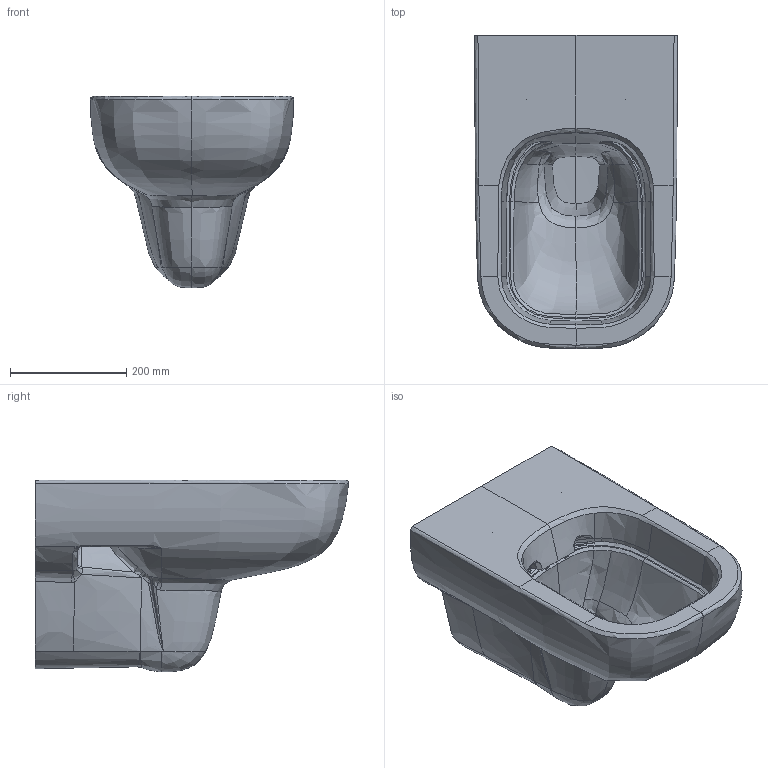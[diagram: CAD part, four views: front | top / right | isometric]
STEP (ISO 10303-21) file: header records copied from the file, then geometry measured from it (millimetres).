
FILE_DESCRIPTION(/* description */ (''),/* implementation_level */ '2;1');
FILE_NAME(/* name */ 'C:\Planerdaten\Export PLA\500.210.01.1\stp\500210.stp',/* time_stamp */ '2020-04-30T09:04:03+02:00',/* author */ ('JANAN'),/* organization */ (''),/* preprocessor_version */ 'ST-DEVELOPER v16.13',/* originating_system */ 'Autodesk Inventor 2018',/* authorisation */ '');
FILE_SCHEMA (('AUTOMOTIVE_DESIGN { 1 0 10303 214 3 1 1 }'));
Products named in the file (2): WWC-T Ge+Smy T54 Rfree; 500.210.01.1_a
Assembly tree (1 placements, depth 2):
  WWC-T Ge+Smy T54 Rfree
    500.210.01.1_a
Bounding box: 350 x 540 x 330.64 mm (x, y, z)
Volume: 20851953.2 mm3; surface area: 810875.2 mm2
Topology: 1 solids, 1 shells, 268 faces, 707 edges, 433 vertices
Faces by surface type: bspline 240, plane 22, cylinder 6
Full cylindrical faces by diameter (mm): 17 x2, 60 x1, 90 x1
Entity records: 57623 total; most frequent: CARTESIAN_POINT 52797, ORIENTED_EDGE 1372, EDGE_CURVE 686, B_SPLINE_CURVE_WITH_KNOTS 466, VERTEX_POINT 427, DIRECTION 407, EDGE_LOOP 276, FACE_OUTER_BOUND 268
